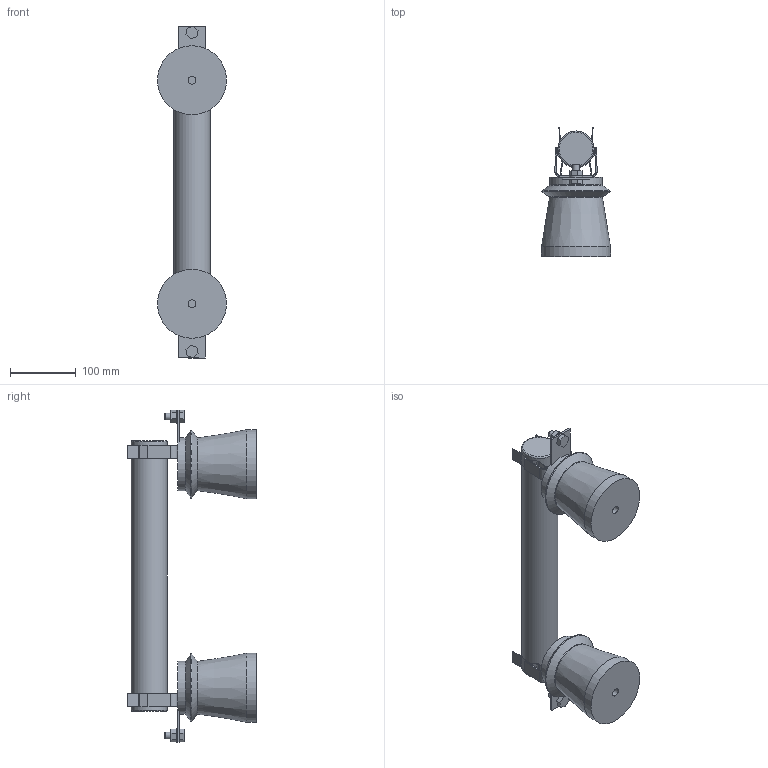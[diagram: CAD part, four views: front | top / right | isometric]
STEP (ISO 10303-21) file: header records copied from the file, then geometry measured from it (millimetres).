
FILE_DESCRIPTION (( 'STEP AP214' ), '1' );
FILE_NAME ('Ïðåäîõðàíèòåëü ÏÊÒ-101-10 Ó3.STEP', '2023-03-06T10:34:29', ( '' ), ( '' ), 'SwSTEP 2.0', 'SolidWorks 2018', '' );
FILE_SCHEMA (( 'AUTOMOTIVE_DESIGN' ));
Length unit declared in the file: millimetre
Products named in the file (1): Ïðåäîõðàíèòåëü ÏÊÒ-101-10 Ó3
Bounding box: 105 x 196.06 x 505 mm (x, y, z)
Volume: 2650657 mm3; surface area: 210777.9 mm2
Topology: 1 solids, 1 shells, 187 faces, 524 edges, 343 vertices
Faces by surface type: plane 118, cylinder 51, torus 10, cone 8
Full cylindrical faces by diameter (mm): 10 x2, 12 x2, 20 x2, 55 x1, 80 x2, 105 x2
Entity records: 5742 total; most frequent: DIRECTION 994, CARTESIAN_POINT 986, ORIENTED_EDGE 948, EDGE_CURVE 474, AXIS2_PLACEMENT_3D 332, LINE 330, VECTOR 330, VERTEX_POINT 324
